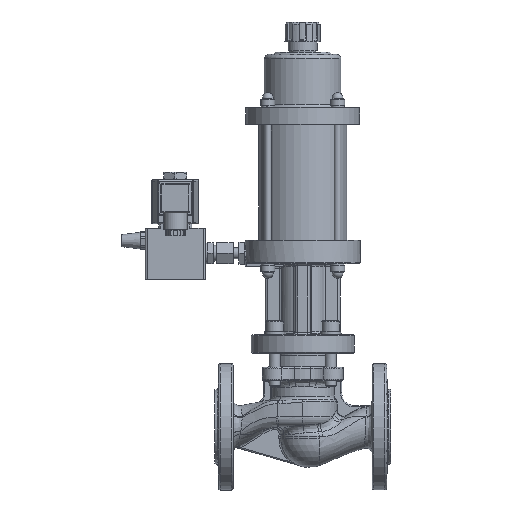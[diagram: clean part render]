
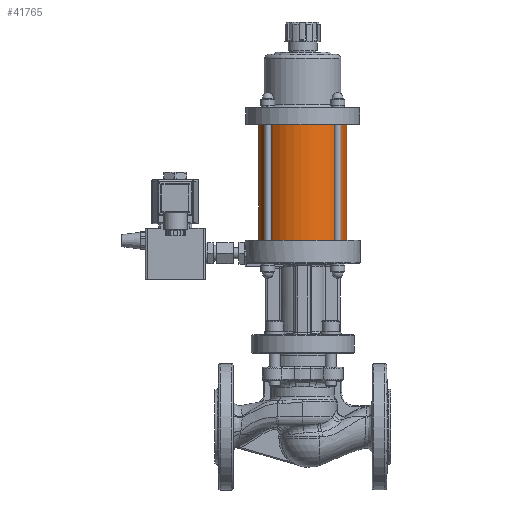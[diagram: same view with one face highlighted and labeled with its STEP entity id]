
A CAD part, front view. The second image highlights one B-rep face of the part: STEP entity #41765.
In plain terms, the highlighted cylindrical face has radius 40 mm (diameter 80 mm), a full revolution.
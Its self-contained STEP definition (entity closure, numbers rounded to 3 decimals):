
#8841=CARTESIAN_POINT('',(39.162,-8.142,275.));
#8842=VERTEX_POINT('',#8841);
#8843=CARTESIAN_POINT('',(0.,0.,275.));
#8844=DIRECTION('',(0.,0.,-1.0));
#8845=DIRECTION('',(-0.979,0.204,0.));
#8846=AXIS2_PLACEMENT_3D('',#8843,#8844,#8845);
#8847=CIRCLE('',#8846,40.0);
#8848=EDGE_CURVE('',#8842,#8842,#8847,.T.);
#36666=CARTESIAN_POINT('',(39.162,-8.142,170.));
#36667=VERTEX_POINT('',#36666);
#36668=CARTESIAN_POINT('',(0.,0.,170.));
#36669=DIRECTION('',(0.,0.,-1.0));
#36670=DIRECTION('',(-0.979,0.204,0.));
#36671=AXIS2_PLACEMENT_3D('',#36668,#36669,#36670);
#36672=CIRCLE('',#36671,40.0);
#36673=EDGE_CURVE('',#36667,#36667,#36672,.T.);
#41754=CARTESIAN_POINT('',(0.,0.,170.));
#41755=DIRECTION('',(0.,0.,1.0));
#41756=DIRECTION('',(-0.979,0.204,0.));
#41757=AXIS2_PLACEMENT_3D('',#41754,#41755,#41756);
#41758=CYLINDRICAL_SURFACE('',#41757,40.0);
#41759=ORIENTED_EDGE('',*,*,#8848,.T.);
#41760=EDGE_LOOP('',(#41759));
#41761=FACE_OUTER_BOUND('',#41760,.T.);
#41762=ORIENTED_EDGE('',*,*,#36673,.F.);
#41763=EDGE_LOOP('',(#41762));
#41764=FACE_BOUND('',#41763,.T.);
#41765=ADVANCED_FACE('',(#41761,#41764),#41758,.T.);
